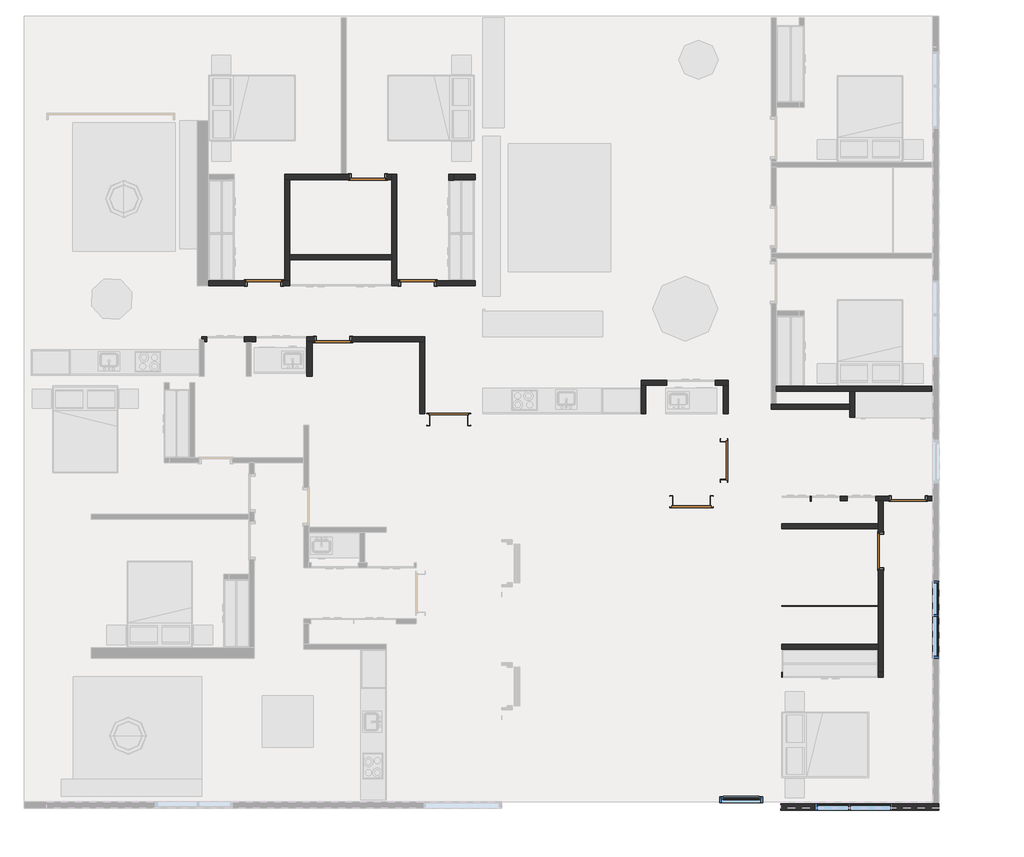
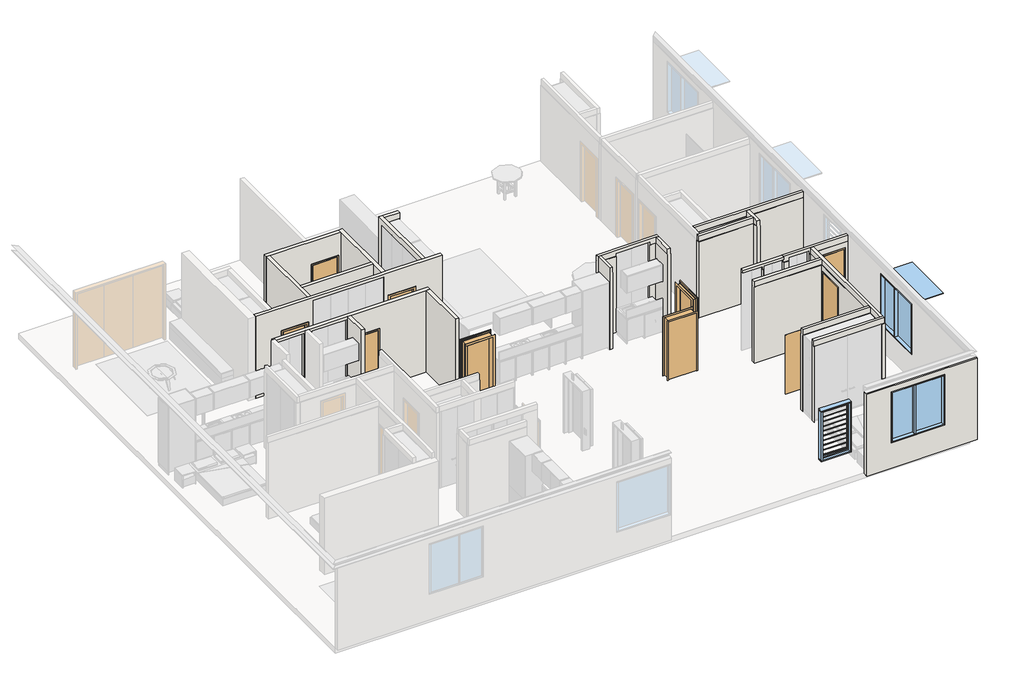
# One storey, part 2 of 5: 23 walls, 10 doors, 3 windows, 1 plate.
"""IFC4 building model written with IfcOpenShell, lengths in millimetres."""

from ifc_helpers import new_model, si_unit, frame, origin, place, context, project, spatial, polyline, outline, extrude, faceted_brep, transform, mapped, element, save
from components import dcw_shower_screen_dcw_shower_screen_0eb16d9f, swing_metal_frame_single_dor_92586886, swing_metal_frame_single_dor_60e0689a, swing_metal_frame_single_dor_07caf723, swing_metal_frame_single_dor_d95655a8, swing_metal_frame_single_dor_70c6aacb, swing_metal_frame_single_dor1_f98e1507, swing_metal_frame_single_dor1_9c4c5c1d, system_panel_glazed_d3338a85, window_bottom_hung_window_bottom_hung_09912109, window_bottom_hung_window_bottom_hung_26d81d5b, window_louvre_window_louvre_92f3ddc7

model = new_model("IFC4")

# Units and contexts
model_context = context("Model", 3, world=origin())
ifc_project = project(units=[si_unit("LENGTHUNIT", "METRE", prefix="MILLI")], contexts=[model_context])

# Site, building, storey
site = spatial("IfcSite", under=ifc_project)
building = spatial("IfcBuilding", under=site)
storey = spatial("IfcBuildingStorey", under=building, Name="10階", Elevation=57800.0)

# Doors
placement = place(None, origin())
dcw_shower_screen_dcw_shower_screen_shape = dcw_shower_screen_dcw_shower_screen_0eb16d9f(model_context)
element("IfcDoor", 1, ObjectType="DCW_Shower Screen : DCW_Shower Screen", at=placement, inside=storey, context=model_context, shape_type="MappedRepresentation", body=[
    mapped(dcw_shower_screen_dcw_shower_screen_shape, transform((21348.7883819, 4772.9800602, 57800.0), x_axis=(-1.0, 0.0, 0.0), y_axis=(0.0, -1.0, 0.0), z_axis=(0.0, 0.0, 1.0))),
])
swing_metal_frame_single_dor_shape = swing_metal_frame_single_dor_92586886(model_context)
element("IfcDoor", 2, ObjectType="Swing_Metal Frame_Single_DOR : 2040h x 820 (2110x920 STUD)", at=placement, inside=storey, context=model_context, shape_type="MappedRepresentation", body=[
    mapped(swing_metal_frame_single_dor_shape, transform((9744.6062665, 11005.7821797, 57800.0), x_axis=(1.0, 0.0, 0.0), y_axis=(0.0, 1.0, 0.0), z_axis=(0.0, 0.0, 1.0))),
])
element("IfcDoor", 3, ObjectType="Swing_Metal Frame_Single_DOR : 2040h x 820 (2110x920 STUD)", at=placement, inside=storey, context=model_context, shape_type="MappedRepresentation", body=[
    mapped(swing_metal_frame_single_dor_shape, transform((8128.6062665, 12323.7821797, 57800.0), x_axis=(-1.0, 0.0, 0.0), y_axis=(0.0, -1.0, 0.0), z_axis=(0.0, 0.0, 1.0))),
])
swing_metal_frame_single_dor_2_shape = swing_metal_frame_single_dor_60e0689a(model_context)
element("IfcDoor", 4, ObjectType="Swing_Metal Frame_Single_DOR : 2040h x 820 (2110x920 STUD)", at=placement, inside=storey, context=model_context, shape_type="MappedRepresentation", body=[
    mapped(swing_metal_frame_single_dor_2_shape, transform((10562.4954006, 14804.7386418, 57800.0), x_axis=(-1.0, 0.0, 0.0), y_axis=(0.0, -1.0, 0.0), z_axis=(0.0, 0.0, 1.0))),
])
element("IfcDoor", 5, ObjectType="Swing_Metal Frame_Single_DOR : 2040h x 820 (2110x920 STUD)", at=placement, inside=storey, context=model_context, shape_type="MappedRepresentation", body=[
    mapped(swing_metal_frame_single_dor_2_shape, transform((11724.4954006, 12323.7821797, 57800.0), x_axis=(1.0, 0.0, 0.0), y_axis=(0.0, 1.0, 0.0), z_axis=(0.0, 0.0, 1.0))),
])
swing_metal_frame_single_dor_3_shape = swing_metal_frame_single_dor_07caf723(model_context)
element("IfcDoor", 6, ObjectType="Swing_Metal Frame_Single_DOR : 2040h x 920 (2110x1020 STUD)", at=placement, inside=storey, context=model_context, shape_type="MappedRepresentation", body=[
    mapped(swing_metal_frame_single_dor_3_shape, transform((18896.1062665, 8170.6340387, 57800.0), x_axis=(0.0, 1.0, 0.0), y_axis=(-1.0, 0.0, 0.0), z_axis=(0.0, 0.0, 1.0))),
])
swing_metal_frame_single_dor_4_shape = swing_metal_frame_single_dor_d95655a8(model_context)
element("IfcDoor", 7, ObjectType="Swing_Metal Frame_Single_DOR : 2040h x 920 (2110x1020 STUD)", at=placement, inside=storey, context=model_context, shape_type="MappedRepresentation", body=[
    mapped(swing_metal_frame_single_dor_4_shape, transform((12453.9954006, 9131.2680774, 57800.0), x_axis=(-1.0, 0.0, 0.0), y_axis=(0.0, -1.0, 0.0), z_axis=(0.0, 0.0, 1.0))),
])
swing_metal_frame_single_dor_5_shape = swing_metal_frame_single_dor_70c6aacb(model_context)
element("IfcDoor", 8, ObjectType="Swing_Metal Frame_Single_DOR : 2040h x 920 (2110x1020 STUD)", at=placement, inside=storey, context=model_context, shape_type="MappedRepresentation", body=[
    mapped(swing_metal_frame_single_dor_5_shape, transform((18132.8562665, 7210.0, 57800.0), x_axis=(1.0, 0.0, 0.0), y_axis=(0.0, 1.0, 0.0), z_axis=(0.0, 0.0, 1.0))),
])
swing_metal_frame_single_dor1_shape = swing_metal_frame_single_dor1_f98e1507(model_context)
element("IfcDoor", 9, ObjectType="Swing_Metal Frame_Single_DOR1 : 2040h x 820 (2110x920 STUD)", at=placement, inside=storey, context=model_context, shape_type="MappedRepresentation", body=[
    mapped(swing_metal_frame_single_dor1_shape, transform((22560.4704973, 6052.9800602, 57800.0), x_axis=(0.0, -1.0, 0.0), y_axis=(1.0, 0.0, 0.0), z_axis=(0.0, 0.0, 1.0))),
])
swing_metal_frame_single_dor1_2_shape = swing_metal_frame_single_dor1_9c4c5c1d(model_context)
element("IfcDoor", 10, ObjectType="Swing_Metal Frame_Single_DOR1 : 2040h x 820 (2110x920 STUD)", at=placement, inside=storey, context=model_context, shape_type="MappedRepresentation", body=[
    mapped(swing_metal_frame_single_dor1_2_shape, transform((23204.5438088, 7282.5, 57800.0), x_axis=(-1.0, 0.0, 0.0), y_axis=(0.0, -1.0, 0.0), z_axis=(0.0, 0.0, 1.0))),
])

# Plate
system_panel_glazed_shape = system_panel_glazed_d3338a85(model_context)
element("IfcPlate", 11, ObjectType="System Panel : Glazed", at=placement, inside=storey, context=model_context, shape_type="MappedRepresentation", body=[
    mapped(system_panel_glazed_shape, transform((22476.4704973, 4772.9800602, 57800.0), x_axis=(-1.0, 0.0, 0.0), y_axis=(0.0, -1.0, 0.0), z_axis=(0.0, 0.0, 1.0))),
])

# Walls
element("IfcWall", 12, ObjectType="Whte Paint Finish", at=placement, inside=storey, context=model_context, shape_type="Brep", body=[
    faceted_brep([(20219.6062665, -10.0, 60700.0), (23923.6171203, -10.0, 60700.0), (23923.6171203, 140.0, 60700.0), (23773.6171203, 140.0, 60700.0), (20219.6062665, 140.0, 60700.0), (20219.6062665, -10.0, 57800.0), (23923.6171203, -10.0, 57800.0), (21029.6062665, -10.0, 58700.0), (21029.6062665, -10.0, 60500.0), (22829.6062665, -10.0, 60500.0), (22829.6062665, -10.0, 58700.0), (20219.6062665, 140.0, 57800.0), (23923.6171203, 140.0, 57800.0), (23773.6171203, 140.0, 57800.0), (21029.6062665, 140.0, 58700.0), (22829.6062665, 140.0, 58700.0), (22829.6062665, 140.0, 60500.0), (21029.6062665, 140.0, 60500.0)], [[[0, 1, 2, 3, 4]], [[5, 6, 1, 0], [7, 8, 9, 10]], [[11, 4, 3, 2, 12, 13], [14, 15, 16, 17]], [[6, 5, 11, 13, 12]], [[5, 0, 4, 11]], [[1, 6, 12, 2]], [[7, 10, 15, 14]], [[10, 9, 16, 15]], [[9, 8, 17, 16]], [[8, 7, 14, 17]]]),
])
element("IfcWall", 13, ObjectType="P1 - Partition Type 1", at=placement, inside=storey, context=model_context, shape_type="Brep", body=[
    faceted_brep([(8616.4954006, 14745.7386418, 57800.0), (8616.4954006, 12382.7821797, 57800.0), (8616.4954006, 12382.7821797, 60700.0), (8616.4954006, 14745.7386418, 60700.0), (8734.4954006, 14745.7386418, 57800.0), (8734.4954006, 14745.7386418, 60700.0), (8734.4954006, 12980.7821797, 60700.0), (8734.4954006, 12862.7821797, 60700.0), (8734.4954006, 12382.7821797, 60700.0), (8734.4954006, 12382.7821797, 60600.0), (8734.4954006, 12382.7821797, 57800.0), (8734.4954006, 12862.7821797, 57800.0), (8734.4954006, 12980.7821797, 57800.0)], [[[0, 1, 2, 3]], [[4, 5, 6, 7, 8, 9, 10, 11, 12]], [[1, 0, 4, 12, 11, 10]], [[0, 3, 5, 4]], [[2, 1, 10, 9, 8]], [[3, 2, 8, 7, 6, 5]]]),
])
element("IfcWall", 14, ObjectType="P1 - Partition Type 1", at=placement, inside=storey, context=model_context, shape_type="Brep", body=[
    faceted_brep([(12452.4954006, 14863.7386418, 57800.0), (12452.4954006, 14732.7821797, 57800.0), (12452.4954006, 14732.7821797, 60500.0), (12452.4954006, 12382.7821797, 60500.0), (12452.4954006, 12382.7821797, 60700.0), (12452.4954006, 14863.7386418, 60700.0), (12570.4954006, 14732.7821797, 57800.0), (12570.4954006, 14745.7386418, 57800.0), (12570.4954006, 14863.7386418, 57800.0), (12570.4954006, 14863.7386418, 60700.0), (12570.4954006, 14745.7386418, 60700.0), (12570.4954006, 12382.7821797, 60700.0), (12570.4954006, 12382.7821797, 60500.0), (12570.4954006, 14732.7821797, 60500.0)], [[[0, 1, 2, 3, 4, 5]], [[6, 7, 8, 9, 10, 11, 12, 13]], [[1, 0, 8, 7, 6]], [[2, 13, 12, 3]], [[13, 2, 1, 6]], [[0, 5, 9, 8]], [[11, 4, 3, 12]], [[5, 4, 11, 10, 9]]]),
])
element("IfcWall", 15, ObjectType="P1 - Partition Type 1", at=placement, inside=storey, context=model_context, shape_type="SweptSolid", body=[
    extrude(outline(polyline([(11776.6062665, 9266.2680774), (11776.6062665, 10946.7821797), (11894.6062665, 10946.7821797), (11894.6062665, 9266.2680774), (11776.6062665, 9266.2680774)])), frame((0.0, 0.0, 57800.0), z_axis=(0.0, 0.0, 1.0), x_axis=(1.0, 0.0, 0.0)), (0.0, 0.0, 1.0), 2900.0),
])
element("IfcWall", 16, ObjectType="P1 - Partition Type 1", at=placement, inside=storey, context=model_context, shape_type="Brep", body=[
    faceted_brep([(6673.4645991, 11064.7821797, 57800.0), (6673.4645991, 11064.7821797, 60700.0), (11894.6062665, 11064.7821797, 60700.0), (11894.6062665, 11064.7821797, 57800.0), (10184.6062665, 11064.7821797, 57800.0), (10184.6062665, 11064.7821797, 59890.0), (9304.6062665, 11064.7821797, 59890.0), (9304.6062665, 11064.7821797, 57800.0), (9136.6062665, 11064.7821797, 57800.0), (9136.6062665, 11064.7821797, 60600.0), (7936.6062665, 11064.7821797, 60600.0), (7936.6062665, 11064.7821797, 57800.0), (7672.4645991, 11064.7821797, 57800.0), (7672.4645991, 11064.7821797, 60600.0), (6792.4645991, 11064.7821797, 60600.0), (6792.4645991, 11064.7821797, 57800.0), (6673.4645991, 10946.7821797, 60700.0), (6673.4645991, 10946.7821797, 57800.0), (6792.4645991, 10946.7821797, 57800.0), (6792.4645991, 10946.7821797, 60600.0), (7672.4645991, 10946.7821797, 60600.0), (7672.4645991, 10946.7821797, 57800.0), (7718.6062665, 10946.7821797, 57800.0), (7836.6062665, 10946.7821797, 57800.0), (7936.6062665, 10946.7821797, 57800.0), (7936.6062665, 10946.7821797, 60600.0), (9136.6062665, 10946.7821797, 60600.0), (9136.6062665, 10946.7821797, 57800.0), (9254.6062665, 10946.7821797, 57800.0), (9304.6062665, 10946.7821797, 57800.0), (9304.6062665, 10946.7821797, 59890.0), (10184.6062665, 10946.7821797, 59890.0), (10184.6062665, 10946.7821797, 57800.0), (11776.6062665, 10946.7821797, 57800.0), (11894.6062665, 10946.7821797, 57800.0), (11894.6062665, 10946.7821797, 60700.0), (11776.6062665, 10946.7821797, 60700.0), (9254.6062665, 10946.7821797, 60700.0), (9136.6062665, 10946.7821797, 60700.0), (7836.6062665, 10946.7821797, 60700.0), (7718.6062665, 10946.7821797, 60700.0)], [[[0, 1, 2, 3, 4, 5, 6, 7, 8, 9, 10, 11, 12, 13, 14, 15]], [[16, 17, 18, 19, 20, 21, 22, 23, 24, 25, 26, 27, 28, 29, 30, 31, 32, 33, 34, 35, 36, 37, 38, 39, 40]], [[17, 0, 15, 18]], [[4, 3, 34, 33, 32]], [[7, 29, 28, 27, 8]], [[21, 12, 11, 24, 23, 22]], [[1, 0, 17, 16]], [[31, 5, 4, 32]], [[5, 31, 30, 6]], [[6, 30, 29, 7]], [[13, 20, 19, 14]], [[20, 13, 12, 21]], [[14, 19, 18, 15]], [[9, 26, 25, 10]], [[26, 9, 8, 27]], [[10, 25, 24, 11]], [[3, 2, 35, 34]], [[2, 1, 16, 40, 39, 38, 37, 36, 35]]]),
])
element("IfcWall", 17, ObjectType="P1 - Partition Type 1", at=placement, inside=storey, context=model_context, shape_type="Brep", body=[
    faceted_brep([(7688.6062665, 12382.7821797, 57800.0), (6824.6645991, 12382.7821797, 57800.0), (6824.6645991, 12382.7821797, 60700.0), (7316.4954006, 12382.7821797, 60700.0), (7434.4954006, 12382.7821797, 60700.0), (8616.4954006, 12382.7821797, 60700.0), (8734.4954006, 12382.7821797, 60700.0), (11114.4954006, 12382.7821797, 60700.0), (11232.4954006, 12382.7821797, 60700.0), (12452.4954006, 12382.7821797, 60700.0), (12570.4954006, 12382.7821797, 60700.0), (13078.9954006, 12382.7821797, 60700.0), (13078.9954006, 12382.7821797, 57800.0), (12164.4954006, 12382.7821797, 57800.0), (12164.4954006, 12382.7821797, 59890.0), (11284.4954006, 12382.7821797, 59890.0), (11284.4954006, 12382.7821797, 57800.0), (11232.4954006, 12382.7821797, 57800.0), (11114.4954006, 12382.7821797, 57800.0), (11114.4954006, 12382.7821797, 60600.0), (8734.4954006, 12382.7821797, 60600.0), (8734.4954006, 12382.7821797, 57800.0), (8616.4954006, 12382.7821797, 57800.0), (8568.6062665, 12382.7821797, 57800.0), (8568.6062665, 12382.7821797, 59890.0), (7688.6062665, 12382.7821797, 59890.0), (6824.6645991, 12264.7821797, 57800.0), (7688.6062665, 12264.7821797, 57800.0), (7688.6062665, 12264.7821797, 59890.0), (8568.6062665, 12264.7821797, 59890.0), (8568.6062665, 12264.7821797, 57800.0), (8734.4954006, 12264.7821797, 57800.0), (8734.4954006, 12264.7821797, 60600.0), (11114.4954006, 12264.7821797, 60600.0), (11114.4954006, 12264.7821797, 57800.0), (11284.4954006, 12264.7821797, 57800.0), (11284.4954006, 12264.7821797, 59890.0), (12164.4954006, 12264.7821797, 59890.0), (12164.4954006, 12264.7821797, 57800.0), (13078.9954006, 12264.7821797, 57800.0), (13078.9954006, 12264.7821797, 60700.0), (6824.6645991, 12264.7821797, 60700.0)], [[[0, 1, 2, 3, 4, 5, 6, 7, 8, 9, 10, 11, 12, 13, 14, 15, 16, 17, 18, 19, 20, 21, 22, 23, 24, 25]], [[26, 27, 28, 29, 30, 31, 32, 33, 34, 35, 36, 37, 38, 39, 40, 41]], [[1, 0, 27, 26]], [[30, 23, 22, 21, 31]], [[13, 12, 39, 38]], [[16, 35, 34, 18, 17]], [[25, 28, 27, 0]], [[28, 25, 24, 29]], [[29, 24, 23, 30]], [[14, 13, 38, 37]], [[15, 14, 37, 36]], [[16, 15, 36, 35]], [[32, 20, 19, 33]], [[20, 32, 31, 21]], [[33, 19, 18, 34]], [[2, 1, 26, 41]], [[12, 11, 40, 39]], [[11, 10, 9, 8, 7, 6, 5, 4, 3, 2, 41, 40]]]),
])
element("IfcWall", 18, ObjectType="P1 - Partition Type 1", at=placement, inside=storey, context=model_context, shape_type="Brep", body=[
    faceted_brep([(9136.6062665, 10946.7821797, 57800.0), (9136.6062665, 10139.7821797, 57800.0), (9136.6062665, 10139.7821797, 60700.0), (9136.6062665, 10946.7821797, 60700.0), (9136.6062665, 10946.7821797, 60600.0), (9254.6062665, 10946.7821797, 57800.0), (9254.6062665, 10946.7821797, 60700.0), (9254.6062665, 10139.7821797, 60700.0), (9254.6062665, 10139.7821797, 57800.0)], [[[0, 1, 2, 3, 4]], [[5, 6, 7, 8]], [[1, 0, 5, 8]], [[2, 1, 8, 7]], [[0, 4, 3, 6, 5]], [[3, 2, 7, 6]]]),
])
element("IfcWall", 19, ObjectType="P1 - Partition Type 1", at=placement, inside=storey, context=model_context, shape_type="SweptSolid", body=[
    extrude(outline(polyline([(13078.9954006, 14745.7386418), (12570.4954006, 14745.7386418), (12570.4954006, 14863.7386418), (13078.9954006, 14863.7386418), (13078.9954006, 14745.7386418)])), frame((0.0, 0.0, 57800.0), z_axis=(0.0, 0.0, 1.0), x_axis=(1.0, 0.0, 0.0)), (0.0, 0.0, 1.0), 2900.0),
])
element("IfcWall", 20, ObjectType="P1 - Partition Type 1", at=placement, inside=storey, context=model_context, shape_type="Brep", body=[
    faceted_brep([(11114.4954006, 14863.7386418, 57800.0), (11114.4954006, 14745.7386418, 57800.0), (11114.4954006, 12980.7821797, 57800.0), (11114.4954006, 12862.7821797, 57800.0), (11114.4954006, 12382.7821797, 57800.0), (11114.4954006, 12382.7821797, 60600.0), (11114.4954006, 12382.7821797, 60700.0), (11114.4954006, 12862.7821797, 60700.0), (11114.4954006, 12980.7821797, 60700.0), (11114.4954006, 14745.7386418, 60700.0), (11114.4954006, 14863.7386418, 60700.0), (11232.4954006, 14863.7386418, 57800.0), (11232.4954006, 14863.7386418, 60700.0), (11232.4954006, 12382.7821797, 60700.0), (11232.4954006, 12382.7821797, 57800.0)], [[[0, 1, 2, 3, 4, 5, 6, 7, 8, 9, 10]], [[11, 12, 13, 14]], [[4, 3, 2, 1, 0, 11, 14]], [[0, 10, 12, 11]], [[6, 5, 4, 14, 13]], [[10, 9, 8, 7, 6, 13, 12]]]),
])
element("IfcWall", 21, ObjectType="P1 - Partition Type 1", at=placement, inside=storey, context=model_context, shape_type="Brep", body=[
    faceted_brep([(8616.4954006, 14745.7386418, 60700.0), (8616.4954006, 14745.7386418, 57800.0), (8734.4954006, 14745.7386418, 57800.0), (10122.4954006, 14745.7386418, 57800.0), (10122.4954006, 14745.7386418, 59890.0), (11002.4954006, 14745.7386418, 59890.0), (11002.4954006, 14745.7386418, 57800.0), (11114.4954006, 14745.7386418, 57800.0), (11114.4954006, 14745.7386418, 60700.0), (8734.4954006, 14745.7386418, 60700.0), (8616.4954006, 14863.7386418, 57800.0), (8616.4954006, 14863.7386418, 60700.0), (9934.4954006, 14863.7386418, 60700.0), (10052.4954006, 14863.7386418, 60700.0), (11114.4954006, 14863.7386418, 60700.0), (11114.4954006, 14863.7386418, 57800.0), (11002.4954006, 14863.7386418, 57800.0), (11002.4954006, 14863.7386418, 59890.0), (10122.4954006, 14863.7386418, 59890.0), (10122.4954006, 14863.7386418, 57800.0), (10052.4954006, 14863.7386418, 57800.0), (9934.4954006, 14863.7386418, 57800.0)], [[[0, 1, 2, 3, 4, 5, 6, 7, 8, 9]], [[10, 11, 12, 13, 14, 15, 16, 17, 18, 19, 20, 21]], [[1, 10, 21, 20, 19, 3, 2]], [[15, 7, 6, 16]], [[18, 4, 3, 19]], [[4, 18, 17, 5]], [[5, 17, 16, 6]], [[1, 0, 11, 10]], [[8, 7, 15, 14]], [[0, 9, 8, 14, 13, 12, 11]]]),
])
element("IfcWall", 22, ObjectType="P1 - Partition Type 1", at=placement, inside=storey, context=model_context, shape_type="SweptSolid", body=[
    extrude(outline(polyline([(11114.4954006, 12862.7821797), (8734.4954006, 12862.7821797), (8734.4954006, 12980.7821797), (11114.4954006, 12980.7821797), (11114.4954006, 12862.7821797)])), frame((0.0, 0.0, 57800.0), z_axis=(0.0, 0.0, 1.0), x_axis=(1.0, 0.0, 0.0)), (0.0, 0.0, 1.0), 2900.0),
])
element("IfcWall", 23, ObjectType="P1 - Partition Type 1", at=placement, inside=storey, context=model_context, shape_type="Brep", body=[
    faceted_brep([(22619.4704973, 7230.0, 60500.0), (22619.4704973, 3213.9800602, 60500.0), (22619.4704973, 3213.9800602, 57800.0), (22619.4704973, 5612.9800602, 57800.0), (22619.4704973, 5612.9800602, 60290.0), (22619.4704973, 6492.9800602, 60290.0), (22619.4704973, 6492.9800602, 57800.0), (22619.4704973, 7230.0, 57800.0), (22501.4704973, 3213.9800602, 60500.0), (22501.4704973, 3754.9800602, 60500.0), (22501.4704973, 3872.9800602, 60500.0), (22501.4704973, 6572.9800602, 60500.0), (22501.4704973, 6690.9800602, 60500.0), (22501.4704973, 7230.0, 60500.0), (22501.4704973, 7230.0, 57800.0), (22501.4704973, 6690.9800602, 57800.0), (22501.4704973, 6572.9800602, 57800.0), (22501.4704973, 6492.9800602, 57800.0), (22501.4704973, 6492.9800602, 60290.0), (22501.4704973, 5612.9800602, 60290.0), (22501.4704973, 5612.9800602, 57800.0), (22501.4704973, 3872.9800602, 57800.0), (22501.4704973, 3754.9800602, 57800.0), (22501.4704973, 3213.9800602, 57800.0), (22514.4704973, 3213.9800602, 60500.0), (22514.4704973, 3767.9800602, 60500.0), (22514.4704973, 3859.9800602, 60500.0), (22514.4704973, 6585.9800602, 60500.0), (22514.4704973, 6677.9800602, 60500.0), (22514.4704973, 7230.0, 60500.0), (22514.4704973, 3200.9800602, 60500.0), (22514.4704973, 3200.9800602, 60700.0), (22514.4704973, 3767.9800602, 60700.0), (22514.4704973, 3859.9800602, 60700.0), (22514.4704973, 6585.9800602, 60700.0), (22514.4704973, 6677.9800602, 60700.0), (22514.4704973, 7243.0, 60700.0), (22514.4704973, 7243.0, 60500.0), (22606.4704973, 7230.0, 60500.0), (22606.4704973, 3213.9800602, 60500.0), (22606.4704973, 7243.0, 60500.0), (22606.4704973, 7243.0, 60700.0), (22606.4704973, 3200.9800602, 60700.0), (22606.4704973, 3200.9800602, 60500.0)], [[[0, 1, 2, 3, 4, 5, 6, 7]], [[8, 9, 10, 11, 12, 13, 14, 15, 16, 17, 18, 19, 20, 21, 22, 23]], [[2, 23, 22, 21, 20, 3]], [[14, 7, 6, 17, 16, 15]], [[13, 12, 11, 10, 9, 8, 24, 25, 26, 27, 28, 29]], [[29, 28, 27, 26, 25, 24, 30, 31, 32, 33, 34, 35, 36, 37]], [[1, 0, 38, 39]], [[39, 38, 40, 41, 42, 43]], [[19, 4, 3, 20]], [[4, 19, 18, 5]], [[5, 18, 17, 6]], [[2, 1, 39, 24, 8, 23]], [[30, 24, 39, 43]], [[42, 31, 30, 43]], [[0, 7, 14, 13, 29, 38]], [[31, 42, 41, 36, 35, 34, 33, 32]], [[40, 38, 29, 37]], [[36, 41, 40, 37]]]),
])
element("IfcWall", 24, ObjectType="P1 - Partition Type 1", at=placement, inside=storey, context=model_context, shape_type="Brep", body=[
    faceted_brep([(20246.1062665, 3213.9800602, 57800.0), (20246.1062665, 3213.9800602, 60500.0), (20251.4704973, 3213.9800602, 60500.0), (20251.4704973, 3213.9800602, 57800.0), (22619.4704973, 3213.9800602, 60500.0), (22619.4704973, 3213.9800602, 57800.0), (22501.4704973, 3213.9800602, 57800.0), (22501.4704973, 3213.9800602, 60500.0), (20246.1062665, 3095.9800602, 60500.0), (20246.1062665, 3095.9800602, 57800.0), (20251.4704973, 3095.9800602, 57800.0), (20251.4704973, 3095.9800602, 60500.0), (22619.4704973, 3095.9800602, 57800.0), (22619.4704973, 3095.9800602, 60500.0), (22501.4704973, 3095.9800602, 60500.0), (22501.4704973, 3095.9800602, 57800.0), (20246.1062665, 3108.9800602, 60500.0), (20246.1062665, 3108.9800602, 60700.0), (20246.1062665, 3200.9800602, 60700.0), (20246.1062665, 3200.9800602, 60500.0), (20251.4704973, 3108.9800602, 60500.0), (20251.4704973, 3200.9800602, 60500.0), (22606.4704973, 3200.9800602, 60500.0), (22606.4704973, 3108.9800602, 60500.0), (22501.4704973, 3108.9800602, 60500.0), (22501.4704973, 3200.9800602, 60500.0), (22514.4704973, 3200.9800602, 60500.0), (22606.4704973, 3108.9800602, 60700.0), (22514.4704973, 3200.9800602, 60700.0), (22606.4704973, 3200.9800602, 60700.0)], [[[0, 1, 2, 3]], [[4, 5, 6, 7]], [[8, 9, 10, 11]], [[12, 13, 14, 15]], [[9, 0, 3, 10]], [[5, 12, 15, 6]], [[1, 0, 9, 8, 16, 17, 18, 19]], [[16, 8, 11, 20]], [[1, 19, 21, 2]], [[22, 23, 24, 14, 13, 4, 7, 25, 26]], [[17, 16, 20, 24, 23, 27]], [[19, 18, 28, 29, 22, 26, 25, 21]], [[18, 17, 27, 29, 28]], [[20, 21, 25, 24]], [[21, 20, 11, 10, 3, 2]], [[24, 25, 7, 6, 15, 14]], [[5, 4, 13, 12]], [[23, 22, 29, 27]]]),
])
element("IfcWall", 25, ObjectType="P1 - Partition Type 1", at=placement, inside=storey, context=model_context, shape_type="Brep", body=[
    faceted_brep([(20114.1062665, 9788.0199398, 57800.0), (21830.6171203, 9788.0199398, 57800.0), (21948.6171203, 9788.0199398, 57800.0), (23748.6171203, 9788.0199398, 57800.0), (23748.6171203, 9788.0199398, 60500.0), (21948.6171203, 9788.0199398, 60500.0), (21830.6171203, 9788.0199398, 60500.0), (20114.1062665, 9788.0199398, 60500.0), (23748.6171203, 9906.0199398, 57800.0), (20114.1062665, 9906.0199398, 57800.0), (20114.1062665, 9906.0199398, 60500.0), (23748.6171203, 9906.0199398, 60500.0), (23748.6171203, 9893.0199398, 60500.0), (23748.6171203, 9893.0199398, 60700.0), (23748.6171203, 9801.0199398, 60700.0), (23748.6171203, 9801.0199398, 60500.0), (20114.1062665, 9893.0199398, 60500.0), (20101.1062665, 9893.0199398, 60500.0), (20101.1062665, 9893.0199398, 60700.0), (21935.6171203, 9801.0199398, 60500.0), (21843.6171203, 9801.0199398, 60500.0), (20114.1062665, 9801.0199398, 60500.0), (21935.6171203, 9801.0199398, 60700.0), (21843.6171203, 9801.0199398, 60700.0), (20101.1062665, 9801.0199398, 60700.0), (20101.1062665, 9801.0199398, 60500.0)], [[[0, 1, 2, 3, 4, 5, 6, 7]], [[8, 9, 10, 11]], [[3, 2, 1, 0, 9, 8]], [[4, 3, 8, 11, 12, 13, 14, 15]], [[11, 10, 16, 12]], [[13, 12, 16, 17, 18]], [[7, 6, 5, 4, 15, 19, 20, 21]], [[21, 20, 19, 15, 14, 22, 23, 24, 25]], [[24, 23, 22, 14, 13, 18]], [[0, 7, 21, 16, 10, 9]], [[17, 16, 21, 25]], [[24, 18, 17, 25]]]),
])
element("IfcWall", 26, ObjectType="P1 - Partition Type 1", at=placement, inside=storey, context=model_context, shape_type="Brep", body=[
    faceted_brep([(18996.1062665, 10047.2081475, 60500.0), (18996.1062665, 10047.2081475, 57800.0), (18683.9954006, 10047.2081475, 57800.0), (18683.9954006, 10047.2081475, 60500.0), (16953.9954006, 10047.2081475, 57800.0), (16953.9954006, 10047.2081475, 60500.0), (17553.9954006, 10047.2081475, 60500.0), (17553.9954006, 10047.2081475, 57800.0), (18996.1062665, 9929.2081475, 57800.0), (18996.1062665, 9929.2081475, 60500.0), (18878.1062665, 9929.2081475, 60500.0), (18683.9954006, 9929.2081475, 60500.0), (18683.9954006, 9929.2081475, 57800.0), (18878.1062665, 9929.2081475, 57800.0), (16953.9954006, 9929.2081475, 60500.0), (16953.9954006, 9929.2081475, 57800.0), (17058.9954006, 9929.2081475, 57800.0), (17553.9954006, 9929.2081475, 57800.0), (17553.9954006, 9929.2081475, 60500.0), (17058.9954006, 9929.2081475, 60500.0), (18983.1062665, 10034.2081475, 60500.0), (18983.1062665, 9942.2081475, 60500.0), (18891.1062665, 9942.2081475, 60500.0), (18683.9954006, 9942.2081475, 60500.0), (18683.9954006, 10034.2081475, 60500.0), (16953.9954006, 10034.2081475, 60500.0), (17553.9954006, 10034.2081475, 60500.0), (16953.9954006, 9942.2081475, 60500.0), (17553.9954006, 9942.2081475, 60500.0), (17045.9954006, 9942.2081475, 60500.0), (18983.1062665, 9942.2081475, 60700.0), (18891.1062665, 9942.2081475, 60700.0), (17045.9954006, 9942.2081475, 60700.0), (16953.9954006, 9942.2081475, 60700.0), (17553.9954006, 9942.2081475, 60600.0), (18683.9954006, 9942.2081475, 60600.0), (16953.9954006, 10034.2081475, 60700.0), (18983.1062665, 10034.2081475, 60700.0), (18683.9954006, 10034.2081475, 60600.0), (17553.9954006, 10034.2081475, 60600.0)], [[[0, 1, 2, 3]], [[4, 5, 6, 7]], [[8, 9, 10, 11, 12, 13]], [[14, 15, 16, 17, 18, 19]], [[1, 8, 13, 12, 2]], [[15, 4, 7, 17, 16]], [[20, 21, 22, 23, 11, 10, 9, 0, 3, 24]], [[5, 25, 26, 6]], [[27, 14, 19, 18, 28, 29]], [[30, 31, 32, 33, 27, 29, 28, 34, 35, 23, 22, 21]], [[36, 37, 20, 24, 38, 39, 26, 25]], [[38, 35, 34, 39]], [[35, 38, 24, 3, 2, 12, 11, 23]], [[39, 34, 28, 18, 17, 7, 6, 26]], [[1, 0, 9, 8]], [[21, 20, 37, 30]], [[5, 4, 15, 14, 27, 33, 36, 25]], [[33, 32, 31, 30, 37, 36]]]),
])
element("IfcWall", 27, ObjectType="P1 - Partition Type 1", at=placement, inside=storey, context=model_context, shape_type="Brep", body=[
    faceted_brep([(18878.1062665, 9929.2081475, 57800.0), (18878.1062665, 9266.2680774, 57800.0), (18878.1062665, 9266.2680774, 60500.0), (18878.1062665, 9929.2081475, 60500.0), (18996.1062665, 9266.2680774, 57800.0), (18996.1062665, 9929.2081475, 57800.0), (18996.1062665, 9929.2081475, 60500.0), (18996.1062665, 9266.2680774, 60500.0), (18983.1062665, 9266.2680774, 60500.0), (18983.1062665, 9266.2680774, 60700.0), (18891.1062665, 9266.2680774, 60700.0), (18891.1062665, 9266.2680774, 60500.0), (18983.1062665, 9929.2081475, 60500.0), (18983.1062665, 9942.2081475, 60500.0), (18983.1062665, 9942.2081475, 60700.0), (18891.1062665, 9929.2081475, 60500.0), (18891.1062665, 9942.2081475, 60700.0), (18891.1062665, 9942.2081475, 60500.0)], [[[0, 1, 2, 3]], [[4, 5, 6, 7]], [[1, 0, 5, 4]], [[2, 1, 4, 7, 8, 9, 10, 11]], [[7, 6, 12, 8]], [[9, 8, 12, 13, 14]], [[3, 2, 11, 15]], [[15, 11, 10, 16, 17]], [[16, 10, 9, 14]], [[0, 3, 15, 12, 6, 5]], [[13, 12, 15, 17]], [[16, 14, 13, 17]]]),
])
element("IfcWall", 28, ObjectType="P1 - Partition Type 1", at=placement, inside=storey, context=model_context, shape_type="Brep", body=[
    faceted_brep([(20246.1062665, 6572.9800602, 57800.0), (22501.4704973, 6572.9800602, 57800.0), (22501.4704973, 6572.9800602, 60500.0), (20246.1062665, 6572.9800602, 60500.0), (22501.4704973, 6690.9800602, 57800.0), (20246.1062665, 6690.9800602, 57800.0), (20246.1062665, 6690.9800602, 60500.0), (22501.4704973, 6690.9800602, 60500.0), (20246.1062665, 6585.9800602, 60500.0), (20246.1062665, 6585.9800602, 60700.0), (20246.1062665, 6677.9800602, 60700.0), (20246.1062665, 6677.9800602, 60500.0), (22501.4704973, 6677.9800602, 60500.0), (22514.4704973, 6677.9800602, 60700.0), (22514.4704973, 6677.9800602, 60500.0), (22501.4704973, 6585.9800602, 60500.0), (22514.4704973, 6585.9800602, 60500.0), (22514.4704973, 6585.9800602, 60700.0)], [[[0, 1, 2, 3]], [[4, 5, 6, 7]], [[1, 0, 5, 4]], [[0, 3, 8, 9, 10, 11, 6, 5]], [[7, 6, 11, 12]], [[12, 11, 10, 13, 14]], [[3, 2, 15, 8]], [[8, 15, 16, 17, 9]], [[2, 1, 4, 7, 12, 15]], [[13, 10, 9, 17]], [[16, 15, 12, 14]], [[13, 17, 16, 14]]]),
])
element("IfcWall", 29, ObjectType="P1 - Partition Type 1", at=placement, inside=storey, context=model_context, shape_type="Brep", body=[
    faceted_brep([(19996.1062665, 9369.0199398, 57800.0), (21830.6171203, 9369.0199398, 57800.0), (21830.6171203, 9369.0199398, 60500.0), (19996.1062665, 9369.0199398, 60500.0), (21830.6171203, 9487.0199398, 57800.0), (20114.1062665, 9487.0199398, 57800.0), (19996.1062665, 9487.0199398, 57800.0), (19996.1062665, 9487.0199398, 60500.0), (20114.1062665, 9487.0199398, 60500.0), (21830.6171203, 9487.0199398, 60500.0), (21830.6171203, 9382.0199398, 60500.0), (20009.1062665, 9382.0199398, 60500.0), (20009.1062665, 9474.0199398, 60500.0), (20101.1062665, 9474.0199398, 60500.0), (21830.6171203, 9474.0199398, 60500.0), (21843.6171203, 9474.0199398, 60500.0), (20009.1062665, 9474.0199398, 60700.0), (20101.1062665, 9474.0199398, 60700.0), (21843.6171203, 9474.0199398, 60700.0), (21843.6171203, 9382.0199398, 60500.0), (21843.6171203, 9382.0199398, 60700.0), (20009.1062665, 9382.0199398, 60700.0)], [[[0, 1, 2, 3]], [[4, 5, 6, 7, 8, 9]], [[1, 0, 6, 5, 4]], [[9, 8, 7, 3, 2, 10, 11, 12, 13, 14]], [[15, 14, 13, 12, 16, 17, 18]], [[10, 19, 20, 21, 11]], [[0, 3, 7, 6]], [[12, 11, 21, 16]], [[2, 1, 4, 9, 14, 10]], [[20, 18, 17, 16, 21]], [[19, 10, 14, 15]], [[18, 20, 19, 15]]]),
])
element("IfcWall", 30, ObjectType="P1 - Partition Type 1", at=placement, inside=storey, context=model_context, shape_type="Brep", body=[
    faceted_brep([(22501.4704973, 3872.9800602, 57800.0), (20246.1062665, 3872.9800602, 57800.0), (20246.1062665, 3872.9800602, 60500.0), (22501.4704973, 3872.9800602, 60500.0), (20246.1062665, 3754.9800602, 57800.0), (22501.4704973, 3754.9800602, 57800.0), (22501.4704973, 3754.9800602, 60500.0), (20246.1062665, 3754.9800602, 60500.0), (20246.1062665, 3767.9800602, 60500.0), (20246.1062665, 3767.9800602, 60700.0), (20246.1062665, 3859.9800602, 60700.0), (20246.1062665, 3859.9800602, 60500.0), (22501.4704973, 3767.9800602, 60500.0), (22514.4704973, 3767.9800602, 60500.0), (22514.4704973, 3767.9800602, 60700.0), (22501.4704973, 3859.9800602, 60500.0), (22514.4704973, 3859.9800602, 60700.0), (22514.4704973, 3859.9800602, 60500.0)], [[[0, 1, 2, 3]], [[4, 5, 6, 7]], [[1, 0, 5, 4]], [[2, 1, 4, 7, 8, 9, 10, 11]], [[7, 6, 12, 8]], [[9, 8, 12, 13, 14]], [[3, 2, 11, 15]], [[15, 11, 10, 16, 17]], [[16, 10, 9, 14]], [[0, 3, 15, 12, 6, 5]], [[13, 12, 15, 17]], [[16, 14, 13, 17]]]),
])
element("IfcWall", 31, ObjectType="P1 - Partition Type 1", at=placement, inside=storey, context=model_context, shape_type="Brep", body=[
    faceted_brep([(20916.1062665, 7217.0, 60500.0), (20916.1062665, 7217.0, 57800.0), (20939.4704973, 7217.0, 57800.0), (20939.4704973, 7217.0, 60500.0), (20916.1062665, 7335.0, 57800.0), (20916.1062665, 7335.0, 60500.0), (20939.4704973, 7335.0, 60500.0), (20939.4704973, 7335.0, 57800.0), (21609.4704973, 7322.0, 60700.0), (21609.4704973, 7243.0, 60700.0), (21609.4704973, 7230.0, 60700.0), (21609.4704973, 7230.0, 60600.0), (21609.4704973, 7322.0, 60600.0), (20246.1062665, 7230.0, 60700.0), (20246.1062665, 7322.0, 60700.0), (20246.1062665, 7322.0, 60600.0), (20246.1062665, 7230.0, 60600.0), (20916.1062665, 7322.0, 60500.0), (20939.4704973, 7322.0, 60500.0), (20939.4704973, 7322.0, 60600.0), (20916.1062665, 7322.0, 60600.0), (20916.1062665, 7230.0, 60500.0), (20939.4704973, 7230.0, 60500.0), (20916.1062665, 7230.0, 60600.0), (20939.4704973, 7230.0, 60600.0)], [[[0, 1, 2, 3]], [[4, 5, 6, 7]], [[1, 4, 7, 2]], [[8, 9, 10, 11, 12]], [[13, 14, 15, 16]], [[5, 17, 18, 6]], [[14, 8, 12, 19, 18, 17, 20, 15]], [[21, 0, 3, 22]], [[10, 13, 16, 23, 21, 22, 24, 11]], [[8, 14, 13, 10, 9]], [[20, 23, 16, 15]], [[23, 20, 17, 5, 4, 1, 0, 21]], [[24, 19, 12, 11]], [[19, 24, 22, 3, 2, 7, 6, 18]]]),
])
element("IfcWall", 32, ObjectType="P1 - Partition Type 1", at=placement, inside=storey, context=model_context, shape_type="Brep", body=[
    faceted_brep([(21830.6171203, 9788.0199398, 57800.0), (21830.6171203, 9487.0199398, 57800.0), (21830.6171203, 9369.0199398, 57800.0), (21830.6171203, 9188.0199398, 57800.0), (21830.6171203, 9188.0199398, 60500.0), (21830.6171203, 9369.0199398, 60500.0), (21830.6171203, 9487.0199398, 60500.0), (21830.6171203, 9788.0199398, 60500.0), (21948.6171203, 9188.0199398, 57800.0), (21948.6171203, 9788.0199398, 57800.0), (21948.6171203, 9788.0199398, 60500.0), (21948.6171203, 9188.0199398, 60500.0), (21935.6171203, 9188.0199398, 60500.0), (21935.6171203, 9188.0199398, 60700.0), (21843.6171203, 9188.0199398, 60700.0), (21843.6171203, 9188.0199398, 60500.0), (21935.6171203, 9788.0199398, 60500.0), (21935.6171203, 9801.0199398, 60500.0), (21935.6171203, 9801.0199398, 60700.0), (21843.6171203, 9382.0199398, 60500.0), (21843.6171203, 9474.0199398, 60500.0), (21843.6171203, 9788.0199398, 60500.0), (21843.6171203, 9382.0199398, 60700.0), (21843.6171203, 9474.0199398, 60700.0), (21843.6171203, 9801.0199398, 60700.0), (21843.6171203, 9801.0199398, 60500.0)], [[[0, 1, 2, 3, 4, 5, 6, 7]], [[8, 9, 10, 11]], [[3, 2, 1, 0, 9, 8]], [[4, 3, 8, 11, 12, 13, 14, 15]], [[11, 10, 16, 12]], [[13, 12, 16, 17, 18]], [[7, 6, 5, 4, 15, 19, 20, 21]], [[21, 20, 19, 15, 14, 22, 23, 24, 25]], [[24, 23, 22, 14, 13, 18]], [[0, 7, 21, 16, 10, 9]], [[17, 16, 21, 25]], [[24, 18, 17, 25]]]),
])
element("IfcWall", 33, ObjectType="P2 - Partition Type 2", at=placement, inside=storey, context=model_context, shape_type="Brep", body=[
    faceted_brep([(17058.9954006, 9266.2680774, 57800.0), (17058.9954006, 9929.2081475, 57800.0), (17058.9954006, 9929.2081475, 60500.0), (17058.9954006, 9266.2680774, 60500.0), (16953.9954006, 9929.2081475, 57800.0), (16953.9954006, 9266.2680774, 57800.0), (16953.9954006, 9266.2680774, 60700.0), (16953.9954006, 9942.2081475, 60700.0), (16953.9954006, 9942.2081475, 60500.0), (16953.9954006, 9929.2081475, 60500.0), (17045.9954006, 9266.2680774, 60500.0), (17045.9954006, 9266.2680774, 60700.0), (17045.9954006, 9929.2081475, 60500.0), (17045.9954006, 9942.2081475, 60500.0), (17045.9954006, 9942.2081475, 60700.0)], [[[0, 1, 2, 3]], [[4, 5, 6, 7, 8, 9]], [[1, 0, 5, 4]], [[0, 3, 10, 11, 6, 5]], [[3, 2, 12, 10]], [[10, 12, 13, 14, 11]], [[2, 1, 4, 9, 12]], [[7, 6, 11, 14]], [[13, 12, 9, 8]], [[7, 14, 13, 8]]]),
])
element("IfcWall", 34, ObjectType="P2 - Partition Type 2", at=placement, inside=storey, context=model_context, shape_type="Brep", body=[
    faceted_brep([(21609.4704973, 7230.0, 60500.0), (21609.4704973, 7230.0, 57800.0), (21779.4704973, 7230.0, 57800.0), (21779.4704973, 7230.0, 60500.0), (23773.6171203, 7230.0, 60500.0), (22619.4704973, 7230.0, 60500.0), (22501.4704973, 7230.0, 60500.0), (22449.4704973, 7230.0, 60500.0), (22449.4704973, 7230.0, 57800.0), (22501.4704973, 7230.0, 57800.0), (22619.4704973, 7230.0, 57800.0), (22764.5438088, 7230.0, 57800.0), (22764.5438088, 7230.0, 60290.0), (23644.5438088, 7230.0, 60290.0), (23644.5438088, 7230.0, 57800.0), (23773.6171203, 7230.0, 57800.0), (21609.4704973, 7335.0, 57800.0), (21609.4704973, 7335.0, 60700.0), (23773.6171203, 7335.0, 60700.0), (23773.6171203, 7335.0, 57800.0), (23644.5438088, 7335.0, 57800.0), (23644.5438088, 7335.0, 60290.0), (22764.5438088, 7335.0, 60290.0), (22764.5438088, 7335.0, 57800.0), (22449.4704973, 7335.0, 57800.0), (22449.4704973, 7335.0, 60600.0), (21779.4704973, 7335.0, 60600.0), (21779.4704973, 7335.0, 57800.0), (21609.4704973, 7243.0, 60500.0), (21609.4704973, 7243.0, 60700.0), (21609.4704973, 7322.0, 60700.0), (21779.4704973, 7243.0, 60500.0), (23773.6171203, 7243.0, 60500.0), (22606.4704973, 7243.0, 60500.0), (22514.4704973, 7243.0, 60500.0), (22449.4704973, 7243.0, 60500.0), (23773.6171203, 7243.0, 60700.0), (22606.4704973, 7243.0, 60700.0), (22514.4704973, 7243.0, 60700.0), (21779.4704973, 7243.0, 60600.0), (22449.4704973, 7243.0, 60600.0)], [[[0, 1, 2, 3]], [[4, 5, 6, 7, 8, 9, 10, 11, 12, 13, 14, 15]], [[16, 17, 18, 19, 20, 21, 22, 23, 24, 25, 26, 27]], [[1, 16, 27, 2]], [[8, 24, 23, 11, 10, 9]], [[19, 15, 14, 20]], [[1, 0, 28, 29, 30, 17, 16]], [[28, 0, 3, 31]], [[7, 6, 5, 4, 32, 33, 34, 35]], [[36, 37, 38, 29, 28, 31, 39, 40, 35, 34, 33, 32]], [[25, 40, 39, 26]], [[26, 39, 31, 3, 2, 27]], [[40, 25, 24, 8, 7, 35]], [[22, 12, 11, 23]], [[12, 22, 21, 13]], [[13, 21, 20, 14]], [[4, 15, 19, 18, 36, 32]], [[18, 17, 30, 29, 38, 37, 36]]]),
])

# Windows
window_bottom_hung_window_bottom_hung_shape = window_bottom_hung_window_bottom_hung_09912109(model_context)
element("IfcWindow", 35, ObjectType="Window_Bottom Hung : Window_Bottom Hung", at=placement, inside=storey, context=model_context, shape_type="MappedRepresentation", body=[
    mapped(window_bottom_hung_window_bottom_hung_shape, transform((23848.6171203, 4446.2680774, 57700.0), x_axis=(0.0, -1.0, 0.0), y_axis=(1.0, 0.0, 0.0), z_axis=(0.0, 0.0, 1.0))),
])
window_bottom_hung_window_bottom_hung_2_shape = window_bottom_hung_window_bottom_hung_26d81d5b(model_context)
element("IfcWindow", 36, ObjectType="Window_Bottom Hung : Window_Bottom Hung", at=placement, inside=storey, context=model_context, shape_type="MappedRepresentation", body=[
    mapped(window_bottom_hung_window_bottom_hung_2_shape, transform((21929.6062665, 65.0, 57700.0), x_axis=(1.0, 0.0, 0.0), y_axis=(0.0, 1.0, 0.0), z_axis=(0.0, 0.0, 1.0))),
])
window_louvre_window_louvre_shape = window_louvre_window_louvre_92f3ddc7(model_context)
element("IfcWindow", 37, ObjectType="Window_Louvre : Window_Louvre", at=placement, inside=storey, context=model_context, shape_type="MappedRepresentation", body=[
    mapped(window_louvre_window_louvre_shape, transform((19294.6062665, 174.0898177, 58100.0), x_axis=(-1.0, 0.0, 0.0), y_axis=(0.0, -1.0, 0.0), z_axis=(0.0, 0.0, 1.0))),
])

save(model, "model.ifc")
